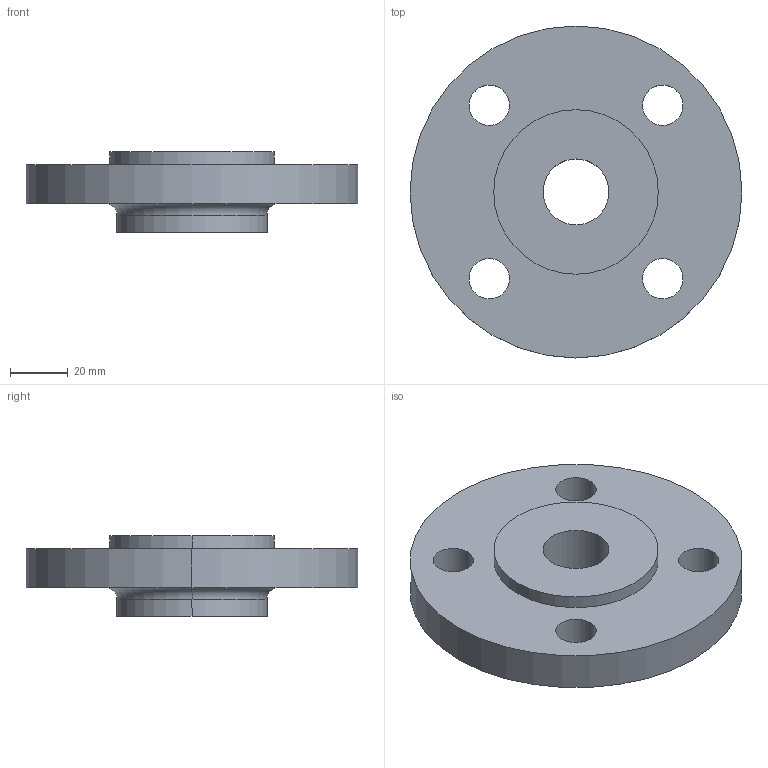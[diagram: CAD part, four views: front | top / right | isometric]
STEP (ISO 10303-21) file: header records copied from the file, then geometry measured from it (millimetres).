
FILE_DESCRIPTION (( 'STEP AP214' ), '1' );
FILE_NAME ('PN40 DN25 Type 13 - Type E Face.STEP', '2018-12-29T20:23:41', ( '' ), ( '' ), 'SwSTEP 2.0', 'SolidWorks 2019', '' );
FILE_SCHEMA (( 'AUTOMOTIVE_DESIGN' ));
Length unit declared in the file: millimetre
Products named in the file (1): PN40 DN25 Type 13 - Type E Face
Bounding box: 115 x 115 x 28 mm (x, y, z)
Volume: 153743.7 mm3; surface area: 30150.3 mm2
Topology: 1 solids, 1 shells, 22 faces, 52 edges, 34 vertices
Faces by surface type: cylinder 16, plane 4, torus 2
Entity records: 710 total; most frequent: DIRECTION 134, CARTESIAN_POINT 109, ORIENTED_EDGE 104, AXIS2_PLACEMENT_3D 59, EDGE_CURVE 52, CIRCLE 36, VERTEX_POINT 34, EDGE_LOOP 34
